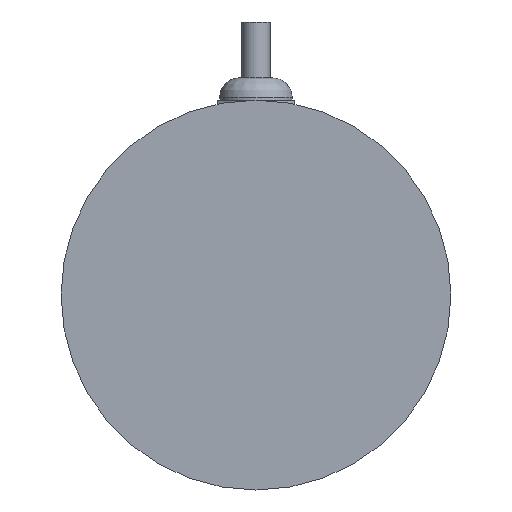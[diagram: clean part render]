
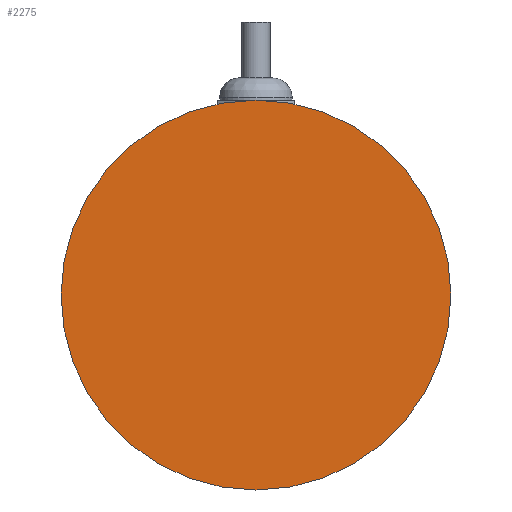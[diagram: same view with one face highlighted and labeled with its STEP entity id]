
A CAD part, front view. The second image highlights one B-rep face of the part: STEP entity #2275.
In plain terms, the highlighted planar face has unit normal (0, -1, 0).
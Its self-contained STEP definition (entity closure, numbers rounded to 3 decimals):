
#94=PLANE('',#2513);
#346=FACE_OUTER_BOUND('',#493,.T.);
#493=EDGE_LOOP('',(#2061,#2062));
#580=CIRCLE('',#2511,35.);
#581=CIRCLE('',#2512,35.);
#1072=VERTEX_POINT('',#9438);
#1073=VERTEX_POINT('',#9439);
#1405=EDGE_CURVE('',#1072,#1073,#580,.T.);
#1406=EDGE_CURVE('',#1073,#1072,#581,.T.);
#2061=ORIENTED_EDGE('',*,*,#1405,.T.);
#2062=ORIENTED_EDGE('',*,*,#1406,.T.);
#2275=ADVANCED_FACE('',(#346),#94,.T.);
#2511=AXIS2_PLACEMENT_3D('',#9440,#3043,#3044);
#2512=AXIS2_PLACEMENT_3D('',#9441,#3045,#3046);
#2513=AXIS2_PLACEMENT_3D('',#9443,#3048,#3049);
#3043=DIRECTION('center_axis',(0.,-1.,0.));
#3044=DIRECTION('ref_axis',(1.,0.,0.));
#3045=DIRECTION('center_axis',(0.,-1.,0.));
#3046=DIRECTION('ref_axis',(1.,0.,0.));
#3048=DIRECTION('center_axis',(0.,-1.,0.));
#3049=DIRECTION('ref_axis',(0.,0.,-1.));
#9438=CARTESIAN_POINT('',(35.,0.,0.));
#9439=CARTESIAN_POINT('',(-35.,0.,0.));
#9440=CARTESIAN_POINT('Origin',(0.,0.,0.));
#9441=CARTESIAN_POINT('Origin',(0.,0.,0.));
#9443=CARTESIAN_POINT('Origin',(0.,0.,0.));
